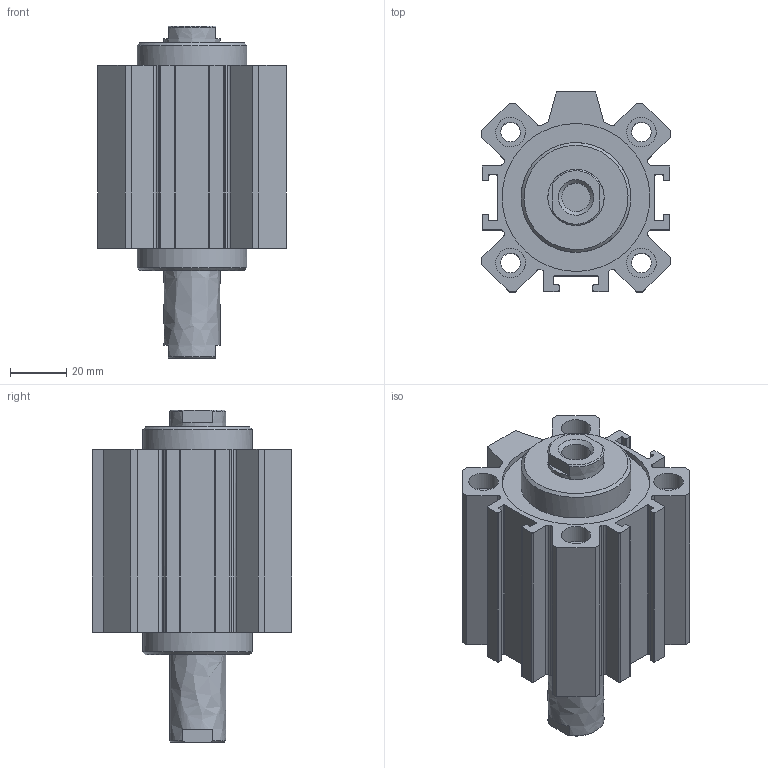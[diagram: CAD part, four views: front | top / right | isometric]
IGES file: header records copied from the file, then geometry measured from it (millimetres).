
Global section: file name: 1514_50_0025; native system: Autodesk Inventor 2014; preprocessor: unknown; author: A. Manieri; date: 20160824.134149; units: millimetre
Bounding box: 67 x 71 x 118 mm (x, y, z)
Volume: 209098 mm3; surface area: 66924.8 mm2
Topology: 2 solids, 2 shells, 178 faces, 482 edges, 328 vertices
Faces by surface type: bspline 178
